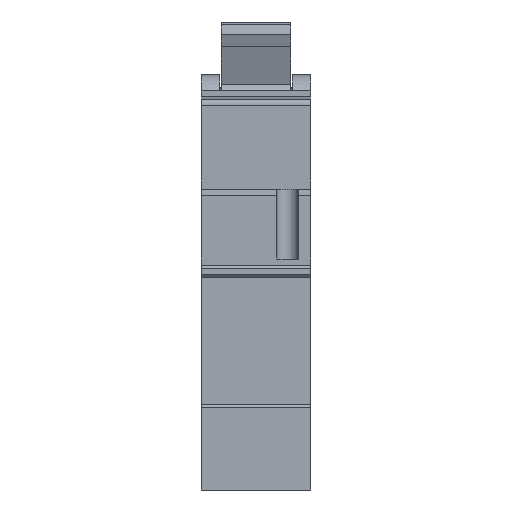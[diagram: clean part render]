
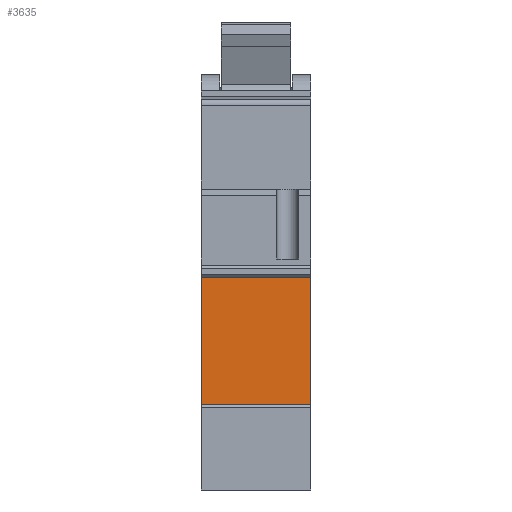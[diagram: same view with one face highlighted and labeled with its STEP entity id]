
A CAD part, front view. The second image highlights one B-rep face of the part: STEP entity #3635.
In plain terms, the highlighted planar face has unit normal (0, -1, 0).
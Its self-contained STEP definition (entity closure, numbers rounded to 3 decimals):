
#402=PLANE('',#3939);
#612=FACE_OUTER_BOUND('',#875,.T.);
#875=EDGE_LOOP('',(#3274,#3275,#3276,#3277));
#1068=LINE('',#6383,#1376);
#1145=LINE('',#6651,#1453);
#1181=LINE('',#6721,#1489);
#1182=LINE('',#6723,#1490);
#1376=VECTOR('',#4437,10.);
#1453=VECTOR('',#4682,10.);
#1489=VECTOR('',#4780,10.);
#1490=VECTOR('',#4783,10.);
#1743=VERTEX_POINT('',#6380);
#1744=VERTEX_POINT('',#6382);
#1850=VERTEX_POINT('',#6648);
#1851=VERTEX_POINT('',#6650);
#2183=EDGE_CURVE('',#1743,#1744,#1068,.T.);
#2303=EDGE_CURVE('',#1851,#1850,#1145,.T.);
#2339=EDGE_CURVE('',#1850,#1744,#1181,.T.);
#2340=EDGE_CURVE('',#1851,#1743,#1182,.T.);
#3274=ORIENTED_EDGE('',*,*,#2303,.T.);
#3275=ORIENTED_EDGE('',*,*,#2339,.T.);
#3276=ORIENTED_EDGE('',*,*,#2183,.F.);
#3277=ORIENTED_EDGE('',*,*,#2340,.F.);
#3635=ADVANCED_FACE('',(#612),#402,.T.);
#3939=AXIS2_PLACEMENT_3D('',#6722,#4781,#4782);
#4437=DIRECTION('',(0.,0.,-1.));
#4682=DIRECTION('',(0.,0.,-1.));
#4780=DIRECTION('',(1.,0.,0.));
#4781=DIRECTION('center_axis',(0.,-1.,0.));
#4782=DIRECTION('ref_axis',(0.,0.,-1.));
#4783=DIRECTION('',(1.,0.,0.));
#6380=CARTESIAN_POINT('',(18.,-38.107,23.093));
#6382=CARTESIAN_POINT('',(18.,-38.107,2.093));
#6383=CARTESIAN_POINT('',(18.,-38.107,23.093));
#6648=CARTESIAN_POINT('',(0.,-38.107,2.093));
#6650=CARTESIAN_POINT('',(0.,-38.107,23.093));
#6651=CARTESIAN_POINT('',(0.,-38.107,23.093));
#6721=CARTESIAN_POINT('',(0.,-38.107,2.093));
#6722=CARTESIAN_POINT('Origin',(0.,-38.107,23.093));
#6723=CARTESIAN_POINT('',(0.,-38.107,23.093));
